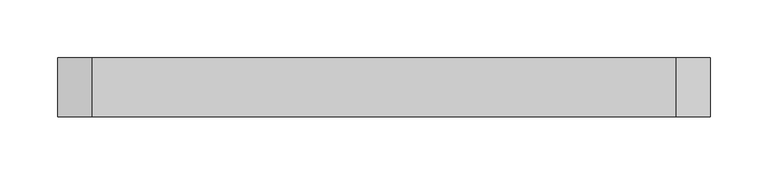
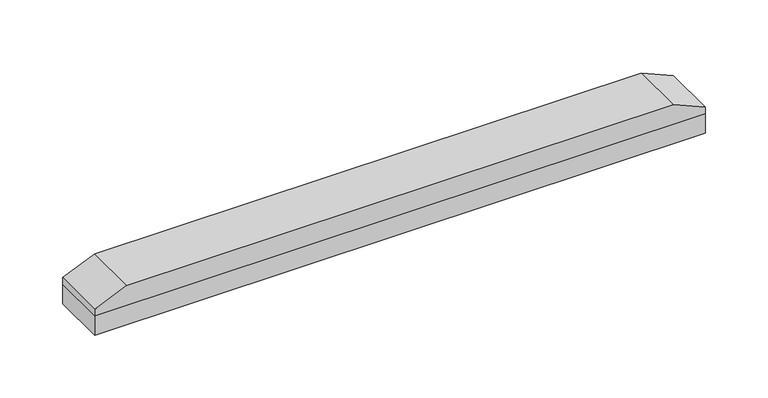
"""IFC4 building model written with IfcOpenShell, lengths in millimetres: proxy geometry, Spinneybeck_ARO Plank 8 : B - 2’-9” x 2” x 3/4”."""

import ifcopenshell
import ifcopenshell.guid

model = None  # the IFC model being written
_history = None  # IfcOwnerHistory: only IFC2X3 demands one
_inside = {}  # id of a spatial element -> (the spatial element, [elements in it])
_under = {}  # id of a project, library or spatial element -> (it, [spatial elements below it])
_declared = {}  # id of a project -> (the project, [libraries it declares])
_typed = {}  # id of a type object -> (the type object, [elements of that type])
_made_of = {}  # id of a material, layer set ... -> (it, [elements and type objects made of it])


def new_model(schema):
    """Start an empty IFC model of exactly this schema.

    Asked for "IFC4X3", IfcOpenShell would pick the latest addendum, in which some entities
    have other attributes; the version numbers below select the first issue.
    IFC2X3 requires an IfcOwnerHistory on every rooted entity: one is made here for all.
    """
    global model, _history
    if schema == "IFC4X3":
        model = ifcopenshell.file(schema_version=(4, 3, 0, 0))
    else:
        model = ifcopenshell.file(schema=schema)
    _inside.clear()
    _under.clear()
    _declared.clear()
    _typed.clear()
    _made_of.clear()
    _history = None
    if model.schema == "IFC2X3":
        org = make("IfcOrganization", Name="unknown")
        user = make(
            "IfcPersonAndOrganization",
            ThePerson=make("IfcPerson", FamilyName="unknown"),
            TheOrganization=org,
        )
        app = make(
            "IfcApplication",
            ApplicationDeveloper=org,
            Version="unknown",
            ApplicationFullName="unknown",
            ApplicationIdentifier="unknown",
        )
        _history = make(
            "IfcOwnerHistory",
            OwningUser=user,
            OwningApplication=app,
            ChangeAction="ADDED",
            CreationDate=0,
        )
    return model


def make(cls, **values):
    """One entity of the class cls with the attributes given. An attribute that is None is left unset."""
    return model.create_entity(
        cls, **{name: value for name, value in values.items() if value is not None}
    )


def rooted(cls, **values):
    """An entity with a GlobalId (a new one), such as an element, a storey or a relation."""
    return make(cls, GlobalId=ifcopenshell.guid.new(), OwnerHistory=_history, **values)


def si_unit(unit_type, name, prefix=None):
    """IfcSIUnit, for example si_unit("LENGTHUNIT", "METRE", prefix="MILLI")."""
    return make("IfcSIUnit", UnitType=unit_type, Prefix=prefix, Name=name)


def assignment(units):
    """IfcUnitAssignment: the units of a project."""
    return None if units is None else make("IfcUnitAssignment", Units=units)


def point(xyz):
    """IfcCartesianPoint."""
    return None if xyz is None else make("IfcCartesianPoint", Coordinates=xyz)


def direction(xyz):
    """IfcDirection."""
    return None if xyz is None else make("IfcDirection", DirectionRatios=xyz)


def frame(location, z_axis=None, x_axis=None):
    """IfcAxis2Placement3D, a coordinate frame: its origin and axes. An axis left out is left unset."""
    return make(
        "IfcAxis2Placement3D",
        Location=point(location),
        Axis=direction(z_axis),
        RefDirection=direction(x_axis),
    )


def origin():
    """The frame at (0, 0, 0) with its axes left unset."""
    return frame((0.0, 0.0, 0.0))


def origin_with_axes():
    """The frame at (0, 0, 0) with the z axis (0, 0, 1) and the x axis (1, 0, 0) written out."""
    return frame((0.0, 0.0, 0.0), z_axis=(0.0, 0.0, 1.0), x_axis=(1.0, 0.0, 0.0))


def place(relative_to, where):
    """IfcLocalPlacement: puts the frame where relative to a parent placement (None: the world)."""
    return make(
        "IfcLocalPlacement", PlacementRelTo=relative_to, RelativePlacement=where
    )


def context(
    kind, dimensions, precision=None, world=None, true_north=None, identifier=None
):
    """IfcGeometricRepresentationContext, for example the 3D "Model" context."""
    return make(
        "IfcGeometricRepresentationContext",
        ContextIdentifier=identifier,
        ContextType=kind,
        CoordinateSpaceDimension=dimensions,
        Precision=precision,
        WorldCoordinateSystem=world,
        TrueNorth=true_north,
    )


def project(units=None, contexts=None):
    """IfcProject with its units and contexts."""
    return rooted(
        "IfcProject",
        Name="project",
        RepresentationContexts=contexts,
        UnitsInContext=assignment(units),
    )


def spatial(cls, under=None, at=None, **own):
    """A site, building, storey or space (cls), placed at a placement, below another one or the project."""
    s = rooted(cls, ObjectPlacement=at, **own)
    if under is not None:
        _under.setdefault(under.id(), (under, []))[1].append(s)
    return s


def polyline(points):
    """IfcPolyline through the points."""
    return make("IfcPolyline", Points=[point(p) for p in points])


def outline(outer, holes=None, kind="AREA"):
    """IfcArbitraryClosedProfileDef: a profile drawn as a closed curve; with holes, ...WithVoids."""
    if holes is None:
        return make("IfcArbitraryClosedProfileDef", ProfileType=kind, OuterCurve=outer)
    return make(
        "IfcArbitraryProfileDefWithVoids",
        ProfileType=kind,
        OuterCurve=outer,
        InnerCurves=holes,
    )


def extrude(swept, where, along, depth):
    """IfcExtrudedAreaSolid: the profile swept, set in the frame where, extruded along a direction by depth."""
    return make(
        "IfcExtrudedAreaSolid",
        SweptArea=swept,
        Position=where,
        ExtrudedDirection=direction(along),
        Depth=depth,
    )


def shape(context_of_items, identifier, shape_type, items):
    """IfcShapeRepresentation: the items that make up one representation, for example the "Body"."""
    return make(
        "IfcShapeRepresentation",
        ContextOfItems=context_of_items,
        RepresentationIdentifier=identifier,
        RepresentationType=shape_type,
        Items=items,
    )


def source(mapping_origin, context_of_items, identifier, shape_type, items):
    """IfcRepresentationMap: a shape defined once, which mapped items show again and again."""
    return make(
        "IfcRepresentationMap",
        MappingOrigin=mapping_origin,
        MappedRepresentation=shape(context_of_items, identifier, shape_type, items),
    )


def transform(
    local_origin,
    x_axis=None,
    y_axis=None,
    z_axis=None,
    scale=None,
    scale2=None,
    scale3=None,
    uniform=True,
):
    """IfcCartesianTransformationOperator3D, or its non-uniform kind. x_axis, y_axis, z_axis: its Axis1, 2, 3."""
    if uniform:
        return make(
            "IfcCartesianTransformationOperator3D",
            Axis1=direction(x_axis),
            Axis2=direction(y_axis),
            LocalOrigin=point(local_origin),
            Scale=scale,
            Axis3=direction(z_axis),
        )
    return make(
        "IfcCartesianTransformationOperator3DnonUniform",
        Axis1=direction(x_axis),
        Axis2=direction(y_axis),
        LocalOrigin=point(local_origin),
        Scale=scale,
        Axis3=direction(z_axis),
        Scale2=scale2,
        Scale3=scale3,
    )


def mapped(mapping_source, mapping_target):
    """IfcMappedItem: shows the shape of a source again, moved by a transform."""
    return make(
        "IfcMappedItem", MappingSource=mapping_source, MappingTarget=mapping_target
    )


def made_of(thing, what):
    """Note that an element or type object is made of a material, layer set ...; save() writes the relation."""
    if what is not None:
        _made_of.setdefault(what.id(), (what, []))[1].append(thing)
    return thing


def element(
    cls,
    number,
    at=None,
    inside=None,
    cuts=None,
    type_object=None,
    material=None,
    context=None,
    identifier="Body",
    shape_type=None,
    held_by="IfcProductDefinitionShape",
    body=None,
    shapes=None,
    **own,
):
    """One element of the class cls, such as IfcWall. Its Tag is "e" and its number.

    at: its placement. inside: the storey or other place that contains it. cuts: it is an
    opening in that element (IfcRelVoidsElement). A single representation is given by context,
    identifier, shape_type and body (its items); several are given by shapes. held_by: the class
    of the entity that holds the representations. save() writes the other relations.
    """
    e = rooted(cls, Tag="e%d" % number, ObjectPlacement=at, **own)
    if body is not None:
        shapes = [shape(context, identifier, shape_type, body)]
    if shapes is not None:
        e.Representation = make(held_by, Representations=shapes)
    if inside is not None:
        _inside.setdefault(inside.id(), (inside, []))[1].append(e)
    if cuts is not None:
        rooted(
            "IfcRelVoidsElement", RelatingBuildingElement=cuts, RelatedOpeningElement=e
        )
    if type_object is not None:
        _typed.setdefault(type_object.id(), (type_object, []))[1].append(e)
    return made_of(e, material)


def aggregate(whole, parts):
    """IfcRelAggregates: a whole, such as a stair, and the parts it consists of."""
    return rooted("IfcRelAggregates", RelatingObject=whole, RelatedObjects=parts)


def save(model, path):
    """Write the relations noted so far, then the file.

    IfcRelAggregates (storeys below a building ...), IfcRelContainedInSpatialStructure (elements
    in a storey), IfcRelDefinesByType, IfcRelAssociatesMaterial and IfcRelDeclares: one each for
    every whole, place, type object, material and project.
    """
    for whole, parts in _under.values():
        aggregate(whole, parts)
    for where, things in _inside.values():
        rooted(
            "IfcRelContainedInSpatialStructure",
            RelatedElements=things,
            RelatingStructure=where,
        )
    for kind, things in _typed.values():
        rooted("IfcRelDefinesByType", RelatedObjects=things, RelatingType=kind)
    for what, things in _made_of.values():
        rooted("IfcRelAssociatesMaterial", RelatedObjects=things, RelatingMaterial=what)
    for by, libraries in _declared.values():
        rooted("IfcRelDeclares", RelatingContext=by, RelatedDefinitions=libraries)
    model.write(path)


def specialty_equipment_72e67ab6(model_context):
    return source(origin(), model_context, "Body", "SweptSolid", [
        extrude(outline(polyline([(19.05, -281.27169), (19.05, 281.27169), (25.4, 281.27169), (38.1, 251.6383567), (38.1, -251.6383567), (25.4, -281.27169), (19.05, -281.27169)])), frame((0.0, -25.4, 0.0), z_axis=(0.0, 1.0, 0.0), x_axis=(0.0, 0.0, 1.0)), (0.0, 0.0, 1.0), 50.8),
        extrude(outline(polyline([(-281.27169, -25.4), (-281.27169, 25.4), (281.27169, 25.4), (281.27169, -25.4), (-281.27169, -25.4)])), origin_with_axes(), (0.0, 0.0, 1.0), 19.05),
    ])


if __name__ == "__main__":
    model = new_model("IFC4")
    model_context = context("Model", 3, world=origin())
    ifc_project = project(units=[si_unit("LENGTHUNIT", "METRE", prefix="MILLI")], contexts=[model_context])
    site = spatial("IfcSite", under=ifc_project)
    building = spatial("IfcBuilding", under=site)
    placement = place(None, origin())
    specialty_equipment_shape = specialty_equipment_72e67ab6(model_context)
    element("IfcBuildingElementProxy", 1, Name="Spinneybeck_ARO Plank 8 : B - 2’-9” x 2” x 3/4”", ObjectType="Spinneybeck_ARO Plank 8 : B - 2’-9” x 2” x 3/4”", at=placement, inside=building, context=model_context, shape_type="MappedRepresentation", body=[
        mapped(specialty_equipment_shape, transform((0.0, 0.0, 0.0), x_axis=(1.0, 0.0, 0.0), y_axis=(0.0, 1.0, 0.0), z_axis=(0.0, 0.0, 1.0))),
    ])
    save(model, "model.ifc")
